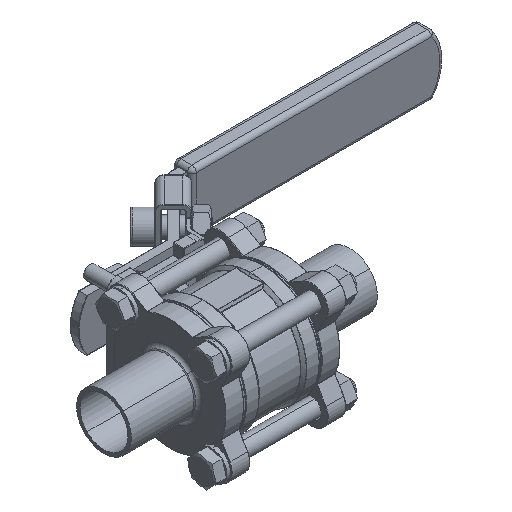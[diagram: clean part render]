
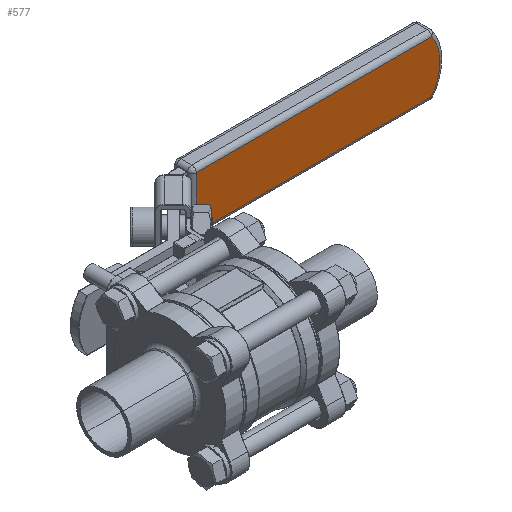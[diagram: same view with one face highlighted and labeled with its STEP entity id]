
A CAD part, isometric view. The second image highlights one B-rep face of the part: STEP entity #577.
In plain terms, the highlighted planar face has unit normal (0, -1, 0) as drawn and (0, 0, -1) by its records, which use the part's own axes.
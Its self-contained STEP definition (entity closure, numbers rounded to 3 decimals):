
#21 = LINE ( 'NONE', #7796, #12608 ) ;
#106 = LINE ( 'NONE', #18125, #14352 ) ;
#577 = ADVANCED_FACE ( 'NONE', ( #25261 ), #3415, .F. ) ;
#1167 = ORIENTED_EDGE ( 'NONE', *, *, #18899, .T. ) ;
#1454 = DIRECTION ( 'NONE',  ( 1., 0., 0. ) ) ;
#1478 = DIRECTION ( 'NONE',  ( 1., 0., 0. ) ) ;
#1541 = DIRECTION ( 'NONE',  ( 1., 0., 0. ) ) ;
#3215 = CARTESIAN_POINT ( 'NONE',  ( 0., -12., -4.5 ) ) ;
#3415 = PLANE ( 'NONE',  #16040 ) ;
#5338 = CARTESIAN_POINT ( 'NONE',  ( 2., 12., -4.5 ) ) ;
#5879 = CIRCLE ( 'NONE', #16104, 20. ) ;
#7074 = EDGE_CURVE ( 'NONE', #20723, #22353, #5879, .T. ) ;
#7409 = CIRCLE ( 'NONE', #24727, 20. ) ;
#7506 = LINE ( 'NONE', #3215, #20038 ) ;
#7796 = CARTESIAN_POINT ( 'NONE',  ( 0., 12., -4.5 ) ) ;
#8036 = CARTESIAN_POINT ( 'NONE',  ( 2., -12., -4.5 ) ) ;
#11689 = VERTEX_POINT ( 'NONE', #8036 ) ;
#12390 = CARTESIAN_POINT ( 'NONE',  ( 115., 0., -4.5 ) ) ;
#12608 = VECTOR ( 'NONE', #1478, 1000. ) ;
#12759 = EDGE_CURVE ( 'NONE', #22353, #21514, #7409, .T. ) ;
#12970 = DIRECTION ( 'NONE',  ( 0., 0., -1. ) ) ;
#13634 = ORIENTED_EDGE ( 'NONE', *, *, #24428, .T. ) ;
#13960 = DIRECTION ( 'NONE',  ( 0., 0., -1. ) ) ;
#14151 = CARTESIAN_POINT ( 'NONE',  ( 0., 0., -4.5 ) ) ;
#14352 = VECTOR ( 'NONE', #26561, 1000. ) ;
#16040 = AXIS2_PLACEMENT_3D ( 'NONE', #14151, #18194, #1454 ) ;
#16104 = AXIS2_PLACEMENT_3D ( 'NONE', #19578, #12970, #21701 ) ;
#16265 = DIRECTION ( 'NONE',  ( -1., 0., 0. ) ) ;
#18125 = CARTESIAN_POINT ( 'NONE',  ( 2., 14., -4.5 ) ) ;
#18194 = DIRECTION ( 'NONE',  ( 0., 0., 1. ) ) ;
#18899 = EDGE_CURVE ( 'NONE', #21514, #11689, #7506, .T. ) ;
#19578 = CARTESIAN_POINT ( 'NONE',  ( 95., 0., -4.5 ) ) ;
#19840 = VERTEX_POINT ( 'NONE', #5338 ) ;
#20038 = VECTOR ( 'NONE', #16265, 1000. ) ;
#20723 = VERTEX_POINT ( 'NONE', #23642 ) ;
#20858 = EDGE_CURVE ( 'NONE', #11689, #19840, #106, .T. ) ;
#21514 = VERTEX_POINT ( 'NONE', #23477 ) ;
#21701 = DIRECTION ( 'NONE',  ( 1., 0., 0. ) ) ;
#21795 = EDGE_LOOP ( 'NONE', ( #1167, #24252, #13634, #24538, #22842 ) ) ;
#22353 = VERTEX_POINT ( 'NONE', #12390 ) ;
#22842 = ORIENTED_EDGE ( 'NONE', *, *, #12759, .T. ) ;
#23477 = CARTESIAN_POINT ( 'NONE',  ( 111., -12., -4.5 ) ) ;
#23642 = CARTESIAN_POINT ( 'NONE',  ( 111., 12., -4.5 ) ) ;
#24252 = ORIENTED_EDGE ( 'NONE', *, *, #20858, .T. ) ;
#24428 = EDGE_CURVE ( 'NONE', #19840, #20723, #21, .T. ) ;
#24436 = CARTESIAN_POINT ( 'NONE',  ( 95., 0., -4.5 ) ) ;
#24538 = ORIENTED_EDGE ( 'NONE', *, *, #7074, .T. ) ;
#24727 = AXIS2_PLACEMENT_3D ( 'NONE', #24436, #13960, #1541 ) ;
#25261 = FACE_OUTER_BOUND ( 'NONE', #21795, .T. ) ;
#26561 = DIRECTION ( 'NONE',  ( 0., 1., 0. ) ) ;
